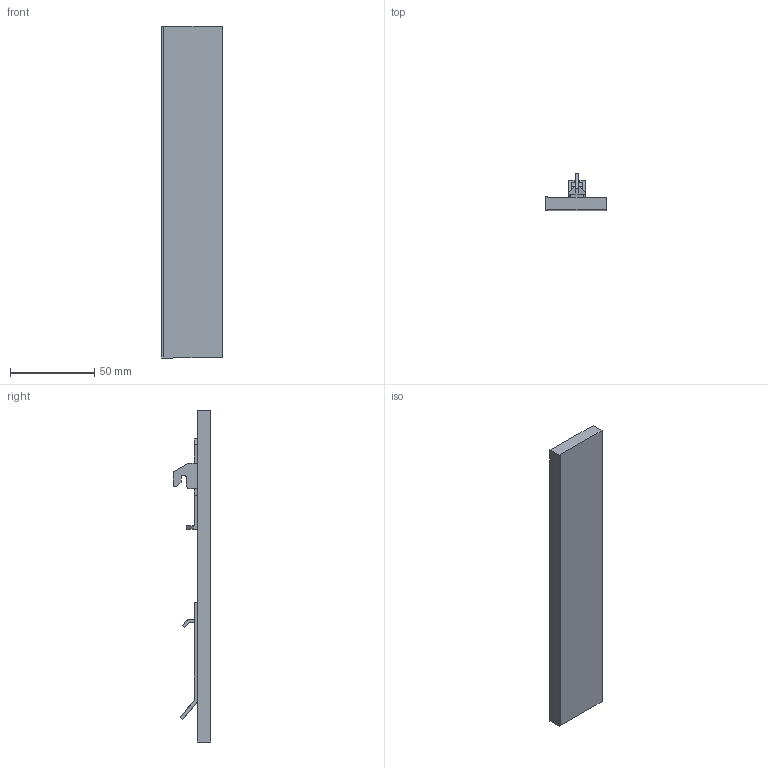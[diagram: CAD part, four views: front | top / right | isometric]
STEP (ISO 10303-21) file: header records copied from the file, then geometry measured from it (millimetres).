
FILE_DESCRIPTION (( 'STEP AP203' ), '1' );
FILE_NAME ('F8 Crystal Steher_Li.STEP', '2025-03-13T10:55:02', ( '' ), ( '' ), 'SwSTEP 2.0', 'SolidWorks 2023', '' );
FILE_SCHEMA (( 'CONFIG_CONTROL_DESIGN' ));
Length unit declared in the file: millimetre
Products named in the file (1): F8 Crystal Steher_Li
Bounding box: 36 x 22.28 x 197.2 mm (x, y, z)
Volume: 56047.7 mm3; surface area: 19372.7 mm2
Topology: 1 solids, 1 shells, 81 faces, 209 edges, 138 vertices
Faces by surface type: plane 68, cylinder 13
Entity records: 2518 total; most frequent: CARTESIAN_POINT 429, ORIENTED_EDGE 418, DIRECTION 399, EDGE_CURVE 209, LINE 183, VECTOR 183, VERTEX_POINT 138, AXIS2_PLACEMENT_3D 108
